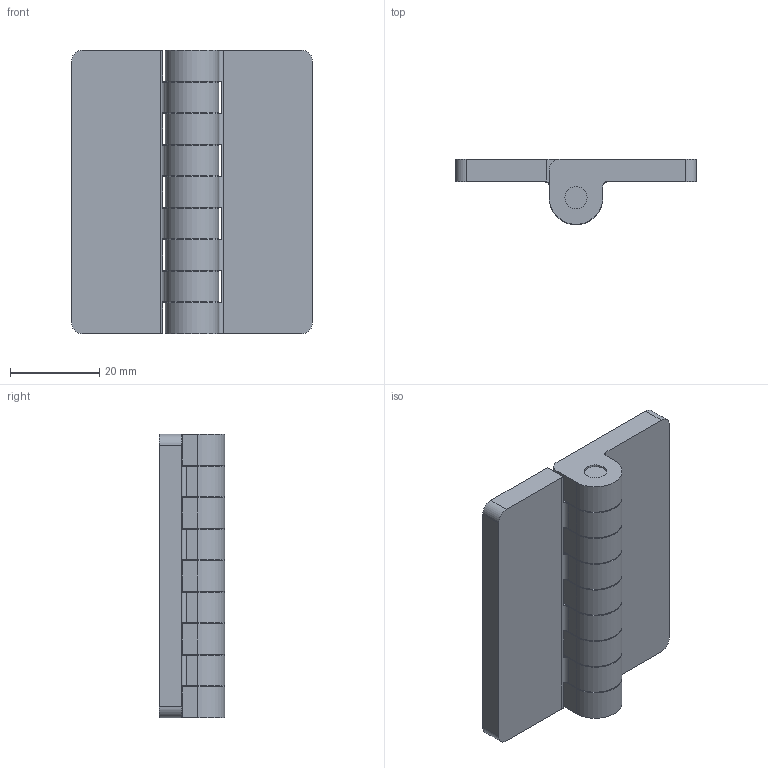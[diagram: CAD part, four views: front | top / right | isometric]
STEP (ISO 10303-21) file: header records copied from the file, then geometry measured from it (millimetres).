
FILE_DESCRIPTION((''),'2;1');
FILE_NAME('6532.stp','2015-07-17T10:34:22',(''),(''),'Mechanical Desktop 2006','Mechanical Desktop 2006',', , ');
FILE_SCHEMA(('CONFIG_CONTROL_DESIGN'));
Length unit declared in the file: millimetre
Products named in the file (3): 6532; TEIL1; TEIL2
Assembly tree (2 placements, depth 2):
  6532
    TEIL1
    TEIL2
Bounding box: 54 x 14.6 x 63.5 mm (x, y, z)
Volume: 23202.2 mm3; surface area: 12708 mm2
Topology: 2 solids, 2 shells, 243 faces, 631 edges, 394 vertices
Faces by surface type: cylinder 140, plane 55, torus 48
Entity records: 8160 total; most frequent: CARTESIAN_POINT 1799, DIRECTION 1451, ORIENTED_EDGE 1262, EDGE_CURVE 631, AXIS2_PLACEMENT_3D 590, VERTEX_POINT 394, CIRCLE 344, VECTOR 271
